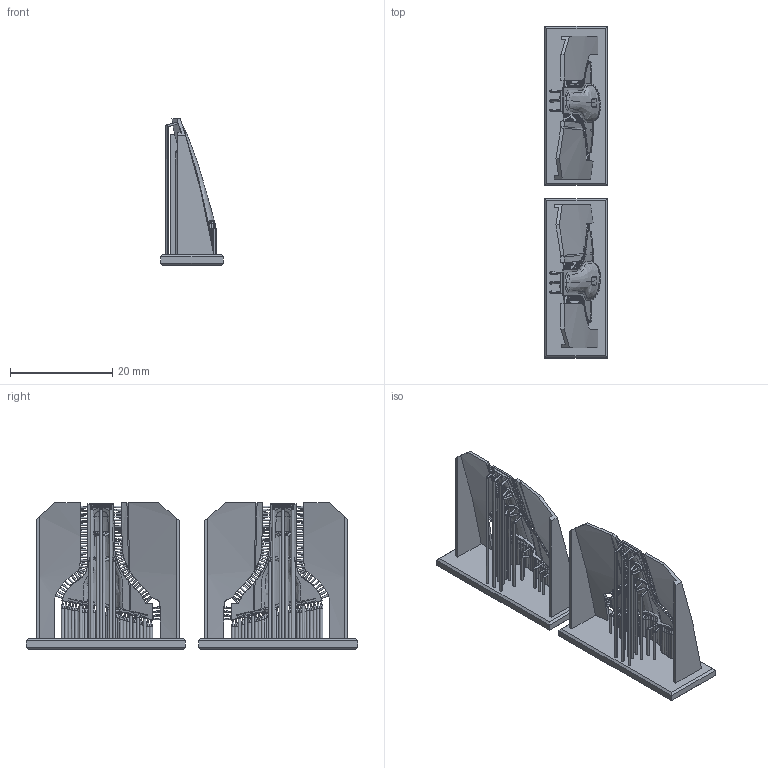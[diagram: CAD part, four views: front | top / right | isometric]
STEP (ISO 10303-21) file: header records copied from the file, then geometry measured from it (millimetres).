
FILE_DESCRIPTION(/* description */ (''),/* implementation_level */ '2;1');
FILE_NAME(/* name */ 'F6F-XL~3',/* time_stamp */ '2021-03-19T12:14:40+01:00',/* author */ (''),/* organization */ (''),/* preprocessor_version */ 'ST-DEVELOPER v16.5',/* originating_system */ '',/* authorisation */ '');
FILE_SCHEMA (('CONFIG_CONTROL_DESIGN'));
Length unit declared in the file: millimetre
Products named in the file (1): Document
Bounding box: 12.15 x 64.92 x 28.6 mm (x, y, z)
Volume: 2507.2 mm3; surface area: 6631.2 mm2
Topology: 2 solids, 2 shells, 1212 faces, 3668 edges, 2344 vertices
Faces by surface type: bspline 782, cylinder 318, plane 112
Entity records: 85164 total; most frequent: CARTESIAN_POINT 64488, ORIENTED_EDGE 7196, EDGE_CURVE 3598, VERTEX_POINT 2342, EDGE_LOOP 1616, B_SPLINE_CURVE_WITH_KNOTS 1602, ADVANCED_FACE 1212, FACE_OUTER_BOUND 1212
